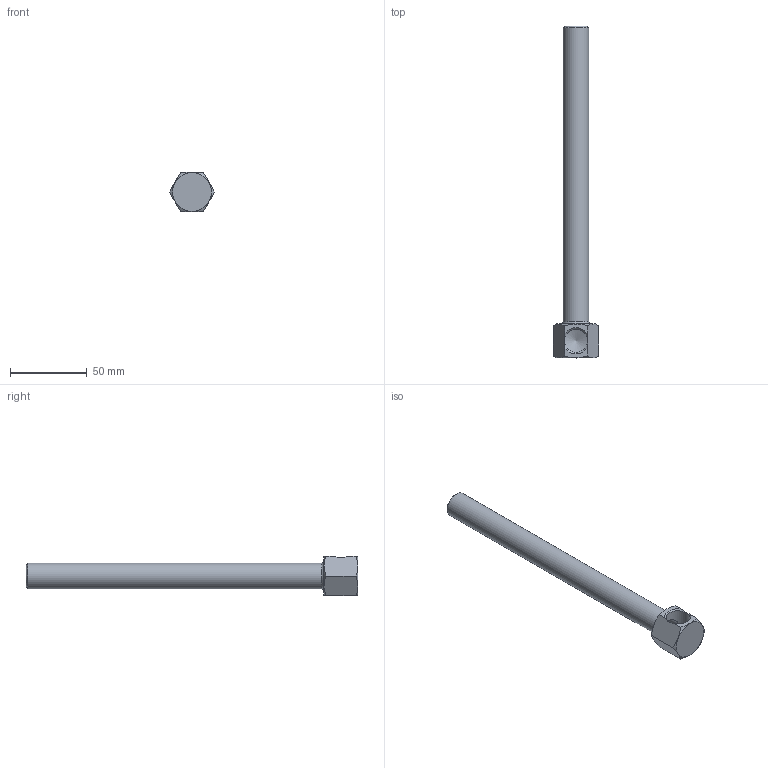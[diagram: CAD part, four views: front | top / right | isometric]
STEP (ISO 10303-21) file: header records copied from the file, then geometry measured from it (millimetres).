
FILE_DESCRIPTION(/* description */ (''),/* implementation_level */ '2;1');
FILE_NAME(/* name */ 'C:/Users/drich/Desktop/38B-8-1_2 v1.step',/* time_stamp */ '2019-12-29T15:23:56-06:00',/* author */ (''),/* organization */ (''),/* preprocessor_version */ 'ST-DEVELOPER v18',/* originating_system */ 'Autodesk Translation Framework v8.12.0.6',/* authorisation */ '');
FILE_SCHEMA (('AUTOMOTIVE_DESIGN { 1 0 10303 214 3 1 1 }'));
Length unit declared in the file: inch
Products named in the file (1): 38B-8-1_2
Bounding box: 29.33 x 215.9 x 25.4 mm (x, y, z)
Volume: 28368.9 mm3; surface area: 21064.2 mm2
Topology: 1 solids, 1 shells, 20 faces, 53 edges, 35 vertices
Faces by surface type: plane 10, cone 6, cylinder 3, torus 1
Full cylindrical faces by diameter (mm): 11.887 x1, 15.173 x1, 16.537 x1
Entity records: 687 total; most frequent: CARTESIAN_POINT 184, ORIENTED_EDGE 104, DIRECTION 91, EDGE_CURVE 52, AXIS2_PLACEMENT_3D 37, VERTEX_POINT 35, EDGE_LOOP 23, FACE_OUTER_BOUND 20
